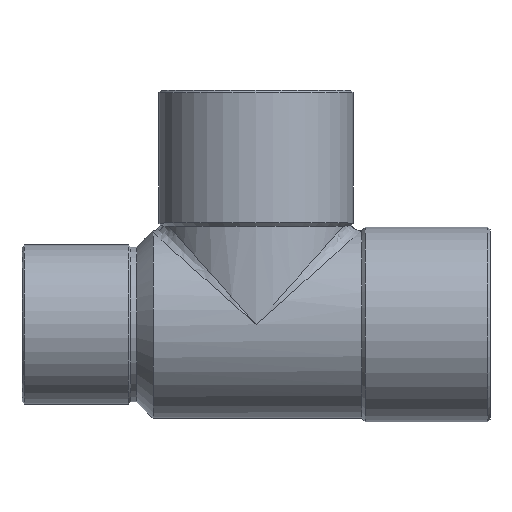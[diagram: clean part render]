
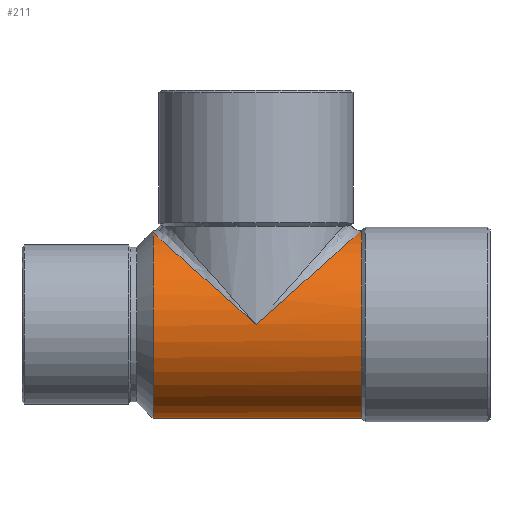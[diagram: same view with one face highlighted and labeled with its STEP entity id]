
A CAD part, top view. The second image highlights one B-rep face of the part: STEP entity #211.
In plain terms, the highlighted cylindrical face has radius 8 mm (diameter 16 mm), a partial arc.
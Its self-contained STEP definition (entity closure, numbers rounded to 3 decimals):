
#49=CARTESIAN_POINT('',(9.026,8.,0.));
#50=VERTEX_POINT('',#49);
#59=CARTESIAN_POINT('',(9.026,-8.,0.));
#60=VERTEX_POINT('',#59);
#61=CARTESIAN_POINT('',(9.026,0.,0.0));
#62=DIRECTION('',(-1.0,0.0,0.0));
#63=DIRECTION('',(0.0,1.0,0.0));
#64=AXIS2_PLACEMENT_3D('',#61,#62,#63);
#65=CIRCLE('',#64,8.);
#66=EDGE_CURVE('',#60,#50,#65,.T.);
#162=CARTESIAN_POINT('',(0.0,0.,0.0));
#163=DIRECTION('',(1.0,0.,0.0));
#164=DIRECTION('',(0.0,1.0,0.0));
#165=AXIS2_PLACEMENT_3D('',#162,#163,#164);
#166=CYLINDRICAL_SURFACE('',#165,8.);
#167=CARTESIAN_POINT('',(9.,8.,0.));
#168=VERTEX_POINT('',#167);
#169=CARTESIAN_POINT('',(9.,8.,0.));
#170=DIRECTION('',(1.0,0.0,0.0));
#171=VECTOR('',#170,0.026);
#172=LINE('',#169,#171);
#173=EDGE_CURVE('',#168,#50,#172,.T.);
#174=ORIENTED_EDGE('',*,*,#173,.F.);
#175=CARTESIAN_POINT('',(0.,0.,8.));
#176=VERTEX_POINT('',#175);
#177=CARTESIAN_POINT('',(0.,0.,0.0));
#178=DIRECTION('',(-0.664,0.747,0.));
#179=DIRECTION('',(0.747,0.664,0.0));
#180=AXIS2_PLACEMENT_3D('',#177,#178,#179);
#181=ELLIPSE('',#180,12.042,8.);
#182=EDGE_CURVE('',#176,#168,#181,.T.);
#183=ORIENTED_EDGE('',*,*,#182,.F.);
#184=CARTESIAN_POINT('',(-8.802,7.824,1.669));
#185=VERTEX_POINT('',#184);
#186=CARTESIAN_POINT('',(0.,0.,0.0));
#187=DIRECTION('',(0.664,0.747,0.));
#188=DIRECTION('',(-0.747,0.664,0.0));
#189=AXIS2_PLACEMENT_3D('',#186,#187,#188);
#190=ELLIPSE('',#189,12.042,8.);
#191=EDGE_CURVE('',#185,#176,#190,.T.);
#192=ORIENTED_EDGE('',*,*,#191,.F.);
#193=CARTESIAN_POINT('',(-8.802,-8.,0.));
#194=VERTEX_POINT('',#193);
#195=CARTESIAN_POINT('',(-8.802,0.,0.0));
#196=DIRECTION('',(1.0,0.0,0.0));
#197=DIRECTION('',(0.0,1.0,0.0));
#198=AXIS2_PLACEMENT_3D('',#195,#196,#197);
#199=CIRCLE('',#198,8.);
#200=EDGE_CURVE('',#185,#194,#199,.T.);
#201=ORIENTED_EDGE('',*,*,#200,.T.);
#202=CARTESIAN_POINT('',(9.026,-8.,0.));
#203=DIRECTION('',(-1.0,0.0,0.0));
#204=VECTOR('',#203,17.828);
#205=LINE('',#202,#204);
#206=EDGE_CURVE('',#60,#194,#205,.T.);
#207=ORIENTED_EDGE('',*,*,#206,.F.);
#208=ORIENTED_EDGE('',*,*,#66,.T.);
#209=EDGE_LOOP('',(#174,#183,#192,#201,#207,#208));
#210=FACE_OUTER_BOUND('',#209,.T.);
#211=ADVANCED_FACE('',(#210),#166,.T.);
